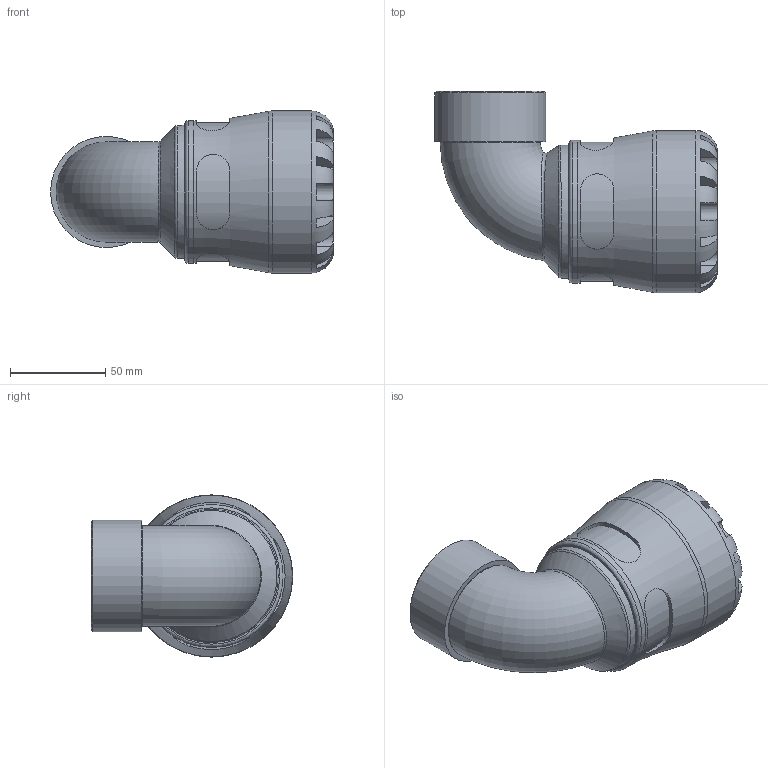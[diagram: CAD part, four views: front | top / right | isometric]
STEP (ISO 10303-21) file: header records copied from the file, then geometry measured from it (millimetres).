
FILE_DESCRIPTION(/* description */ ('PLASSON 90° ELBOW WITH THREADED FEMALE OFFTAKE 50X1.1/2" SERIES 1'),/* implementation_level */ '2;1');
FILE_NAME(/* name */ 'C:\Dropbox\KIMPROJECTS-Inventor\99-16-3568-Processing\S1\1015\101500050015_191500050015.ipt.stp',/* time_stamp */ '2017-07-30T11:52:04+03:00',/* author */ ('KIM'),/* organization */ (''),/* preprocessor_version */ 'ST-DEVELOPER v15.6',/* originating_system */ 'Autodesk Inventor 2015',/* authorisation */ '');
FILE_SCHEMA (('AUTOMOTIVE_DESIGN { 1 0 10303 214 3 1 1 }'));
Length unit declared in the file: millimetre
Products named in the file (1): 101500050015_191500050015
Bounding box: 148.15 x 105.5 x 85 mm (x, y, z)
Volume: 329144.9 mm3; surface area: 68035.1 mm2
Topology: 1 solids, 1 shells, 110 faces, 266 edges, 165 vertices
Faces by surface type: plane 62, cylinder 37, torus 6, bspline 3, cone 2
Full cylindrical faces by diameter (mm): 40.361 x2, 44.845 x1, 50 x1, 52.469 x1, 58.298 x1, 69.7 x1, 74.8 x1, 85 x1
Entity records: 4215 total; most frequent: CARTESIAN_POINT 1785, ORIENTED_EDGE 488, DIRECTION 487, EDGE_CURVE 244, AXIS2_PLACEMENT_3D 203, VERTEX_POINT 161, EDGE_LOOP 137, FACE_OUTER_BOUND 110
